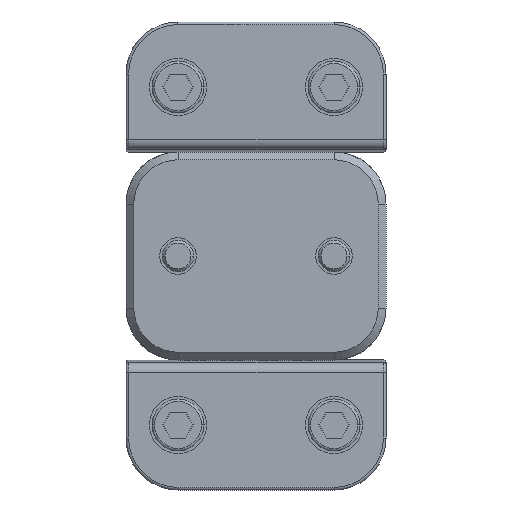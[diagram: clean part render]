
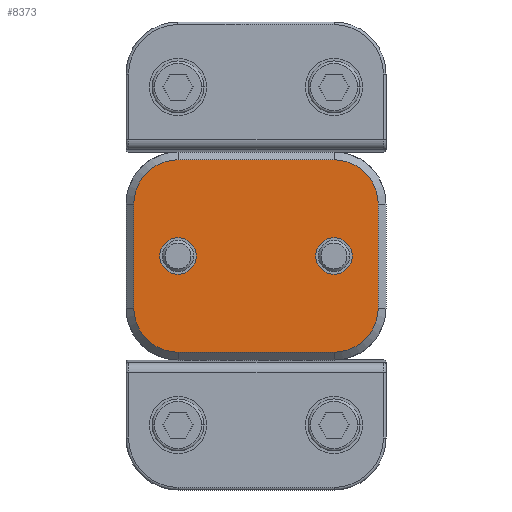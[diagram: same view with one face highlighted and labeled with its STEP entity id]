
A CAD part, front view. The second image highlights one B-rep face of the part: STEP entity #8373.
In plain terms, the highlighted planar face has unit normal (0, -1, 0) as drawn and (0, 0, 1) by its records, which use the part's own axes.
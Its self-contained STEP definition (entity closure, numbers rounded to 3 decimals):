
#169 = ORIENTED_EDGE ( 'NONE', *, *, #2389, .T. ) ;
#179 = CARTESIAN_POINT ( 'NONE',  ( 50., -20., 0. ) ) ;
#212 = CARTESIAN_POINT ( 'NONE',  ( 10., -10., 0. ) ) ;
#219 = ORIENTED_EDGE ( 'NONE', *, *, #1382, .T. ) ;
#340 = EDGE_CURVE ( 'NONE', #7961, #7657, #762, .T. ) ;
#391 = DIRECTION ( 'NONE',  ( 0., 0., -1. ) ) ;
#438 = LINE ( 'NONE', #1184, #7025 ) ;
#644 = EDGE_LOOP ( 'NONE', ( #169, #219 ) ) ;
#658 = ORIENTED_EDGE ( 'NONE', *, *, #8482, .T. ) ;
#677 = CARTESIAN_POINT ( 'NONE',  ( 10., 0., 0. ) ) ;
#736 = LINE ( 'NONE', #8081, #1347 ) ;
#762 = CIRCLE ( 'NONE', #8901, 3.5 ) ;
#847 = VERTEX_POINT ( 'NONE', #2644 ) ;
#1166 = DIRECTION ( 'NONE',  ( -1., 0., 0. ) ) ;
#1178 = CIRCLE ( 'NONE', #3107, 8.5 ) ;
#1184 = CARTESIAN_POINT ( 'NONE',  ( 48.5, -20., 0. ) ) ;
#1256 = EDGE_CURVE ( 'NONE', #847, #8431, #5136, .T. ) ;
#1268 = VERTEX_POINT ( 'NONE', #4887 ) ;
#1347 = VECTOR ( 'NONE', #5672, 1000. ) ;
#1382 = EDGE_CURVE ( 'NONE', #4185, #7731, #3237, .T. ) ;
#1614 = DIRECTION ( 'NONE',  ( 0., 0., -1. ) ) ;
#1718 = AXIS2_PLACEMENT_3D ( 'NONE', #2727, #391, #9039 ) ;
#1921 = CARTESIAN_POINT ( 'NONE',  ( 40., 0., 0. ) ) ;
#1978 = VERTEX_POINT ( 'NONE', #7117 ) ;
#2037 = CARTESIAN_POINT ( 'NONE',  ( 10., 10., 0. ) ) ;
#2090 = EDGE_CURVE ( 'NONE', #7925, #3053, #736, .T. ) ;
#2126 = EDGE_LOOP ( 'NONE', ( #2806, #7682, #658, #6098, #3706, #2569, #8728, #3294 ) ) ;
#2250 = FACE_BOUND ( 'NONE', #4611, .T. ) ;
#2374 = EDGE_CURVE ( 'NONE', #8705, #5404, #6224, .T. ) ;
#2389 = EDGE_CURVE ( 'NONE', #7731, #4185, #3091, .T. ) ;
#2452 = DIRECTION ( 'NONE',  ( -1., 0., 0. ) ) ;
#2569 = ORIENTED_EDGE ( 'NONE', *, *, #5455, .T. ) ;
#2644 = CARTESIAN_POINT ( 'NONE',  ( 48.5, 10., 0. ) ) ;
#2727 = CARTESIAN_POINT ( 'NONE',  ( 10., 0., 0. ) ) ;
#2806 = ORIENTED_EDGE ( 'NONE', *, *, #9375, .T. ) ;
#3018 = LINE ( 'NONE', #9349, #5408 ) ;
#3053 = VERTEX_POINT ( 'NONE', #6654 ) ;
#3091 = CIRCLE ( 'NONE', #7828, 3.5 ) ;
#3107 = AXIS2_PLACEMENT_3D ( 'NONE', #8144, #9785, #4119 ) ;
#3162 = EDGE_CURVE ( 'NONE', #7657, #7961, #9195, .T. ) ;
#3237 = CIRCLE ( 'NONE', #1718, 3.5 ) ;
#3294 = ORIENTED_EDGE ( 'NONE', *, *, #7330, .T. ) ;
#3706 = ORIENTED_EDGE ( 'NONE', *, *, #5352, .T. ) ;
#4073 = CARTESIAN_POINT ( 'NONE',  ( 40., 10., 0. ) ) ;
#4119 = DIRECTION ( 'NONE',  ( -1., 0., 0. ) ) ;
#4185 = VERTEX_POINT ( 'NONE', #9728 ) ;
#4392 = DIRECTION ( 'NONE',  ( -1., 0., 0. ) ) ;
#4480 = DIRECTION ( 'NONE',  ( 1., 0., 0. ) ) ;
#4611 = EDGE_LOOP ( 'NONE', ( #5296, #7749 ) ) ;
#4772 = FACE_OUTER_BOUND ( 'NONE', #2126, .T. ) ;
#4887 = CARTESIAN_POINT ( 'NONE',  ( 10., 18.5, 0. ) ) ;
#4907 = PLANE ( 'NONE',  #9804 ) ;
#5136 = CIRCLE ( 'NONE', #8703, 8.5 ) ;
#5190 = DIRECTION ( 'NONE',  ( 0., 0., -1. ) ) ;
#5296 = ORIENTED_EDGE ( 'NONE', *, *, #3162, .T. ) ;
#5352 = EDGE_CURVE ( 'NONE', #5404, #1978, #1178, .T. ) ;
#5404 = VERTEX_POINT ( 'NONE', #7498 ) ;
#5408 = VECTOR ( 'NONE', #7793, 1000. ) ;
#5455 = EDGE_CURVE ( 'NONE', #1978, #847, #438, .T. ) ;
#5555 = AXIS2_PLACEMENT_3D ( 'NONE', #212, #5775, #8151 ) ;
#5672 = DIRECTION ( 'NONE',  ( 0., -1., 0. ) ) ;
#5775 = DIRECTION ( 'NONE',  ( 0., 0., 1. ) ) ;
#5794 = DIRECTION ( 'NONE',  ( 0., 0., 1. ) ) ;
#5989 = CARTESIAN_POINT ( 'NONE',  ( 43.5, 0., 0. ) ) ;
#6033 = AXIS2_PLACEMENT_3D ( 'NONE', #8256, #7537, #7504 ) ;
#6098 = ORIENTED_EDGE ( 'NONE', *, *, #2374, .T. ) ;
#6224 = LINE ( 'NONE', #10002, #8062 ) ;
#6423 = CARTESIAN_POINT ( 'NONE',  ( 40., 18.5, 0. ) ) ;
#6623 = CIRCLE ( 'NONE', #5555, 8.5 ) ;
#6654 = CARTESIAN_POINT ( 'NONE',  ( 1.5, -10., 0. ) ) ;
#6749 = DIRECTION ( 'NONE',  ( 0., 1., 0. ) ) ;
#7025 = VECTOR ( 'NONE', #6749, 1000. ) ;
#7042 = DIRECTION ( 'NONE',  ( 0., 0., -1. ) ) ;
#7117 = CARTESIAN_POINT ( 'NONE',  ( 48.5, -10., 0. ) ) ;
#7322 = DIRECTION ( 'NONE',  ( -1., 0., 0. ) ) ;
#7330 = EDGE_CURVE ( 'NONE', #8431, #1268, #3018, .T. ) ;
#7498 = CARTESIAN_POINT ( 'NONE',  ( 40., -18.5, 0. ) ) ;
#7504 = DIRECTION ( 'NONE',  ( -1., 0., 0. ) ) ;
#7537 = DIRECTION ( 'NONE',  ( 0., 0., -1. ) ) ;
#7538 = CARTESIAN_POINT ( 'NONE',  ( 10., -18.5, 0. ) ) ;
#7644 = CARTESIAN_POINT ( 'NONE',  ( 1.5, 10., 0. ) ) ;
#7657 = VERTEX_POINT ( 'NONE', #10261 ) ;
#7682 = ORIENTED_EDGE ( 'NONE', *, *, #2090, .T. ) ;
#7731 = VERTEX_POINT ( 'NONE', #10195 ) ;
#7749 = ORIENTED_EDGE ( 'NONE', *, *, #340, .T. ) ;
#7793 = DIRECTION ( 'NONE',  ( -1., 0., 0. ) ) ;
#7828 = AXIS2_PLACEMENT_3D ( 'NONE', #677, #7042, #10204 ) ;
#7925 = VERTEX_POINT ( 'NONE', #7644 ) ;
#7961 = VERTEX_POINT ( 'NONE', #5989 ) ;
#8062 = VECTOR ( 'NONE', #4480, 1000. ) ;
#8081 = CARTESIAN_POINT ( 'NONE',  ( 1.5, -10., 0. ) ) ;
#8144 = CARTESIAN_POINT ( 'NONE',  ( 40., -10., 0. ) ) ;
#8151 = DIRECTION ( 'NONE',  ( -1., 0., 0. ) ) ;
#8256 = CARTESIAN_POINT ( 'NONE',  ( 40., 0., 0. ) ) ;
#8373 = ADVANCED_FACE ( 'NONE', ( #4772, #8595, #2250 ), #4907, .F. ) ;
#8431 = VERTEX_POINT ( 'NONE', #6423 ) ;
#8482 = EDGE_CURVE ( 'NONE', #3053, #8705, #6623, .T. ) ;
#8595 = FACE_BOUND ( 'NONE', #644, .T. ) ;
#8703 = AXIS2_PLACEMENT_3D ( 'NONE', #4073, #5794, #2452 ) ;
#8705 = VERTEX_POINT ( 'NONE', #7538 ) ;
#8728 = ORIENTED_EDGE ( 'NONE', *, *, #1256, .T. ) ;
#8901 = AXIS2_PLACEMENT_3D ( 'NONE', #1921, #5190, #1166 ) ;
#9009 = AXIS2_PLACEMENT_3D ( 'NONE', #2037, #9147, #4392 ) ;
#9039 = DIRECTION ( 'NONE',  ( -1., 0., 0. ) ) ;
#9147 = DIRECTION ( 'NONE',  ( 0., 0., 1. ) ) ;
#9195 = CIRCLE ( 'NONE', #6033, 3.5 ) ;
#9349 = CARTESIAN_POINT ( 'NONE',  ( 50., 18.5, 0. ) ) ;
#9375 = EDGE_CURVE ( 'NONE', #1268, #7925, #9469, .T. ) ;
#9469 = CIRCLE ( 'NONE', #9009, 8.5 ) ;
#9728 = CARTESIAN_POINT ( 'NONE',  ( 13.5, 0., 0. ) ) ;
#9785 = DIRECTION ( 'NONE',  ( 0., 0., 1. ) ) ;
#9804 = AXIS2_PLACEMENT_3D ( 'NONE', #179, #1614, #7322 ) ;
#10002 = CARTESIAN_POINT ( 'NONE',  ( 50., -18.5, 0. ) ) ;
#10195 = CARTESIAN_POINT ( 'NONE',  ( 6.5, 0., 0. ) ) ;
#10204 = DIRECTION ( 'NONE',  ( -1., 0., 0. ) ) ;
#10261 = CARTESIAN_POINT ( 'NONE',  ( 36.5, 0., 0. ) ) ;
